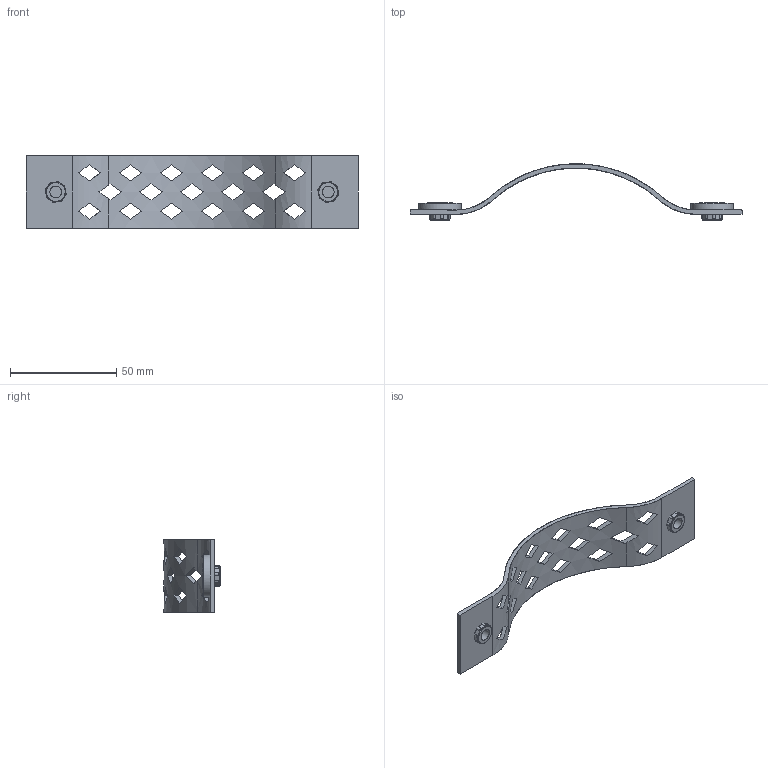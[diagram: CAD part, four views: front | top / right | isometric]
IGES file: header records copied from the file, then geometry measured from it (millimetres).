
Start section: C
Global section: file name: 8335-156.igs; native system: By Siemens PLM Incorporated; preprocessor: XPlus GENERIC/IGES 16.0.42; author: Author; organization: Title; date: 20210506.110313; units: millimetre
Bounding box: 156 x 26.52 x 34 mm (x, y, z)
Surface area: 13620.4 mm2 (no closed solid volume)
Topology: 0 solids, 0 shells, 148 faces, 874 edges, 872 vertices
Faces by surface type: bspline 148
